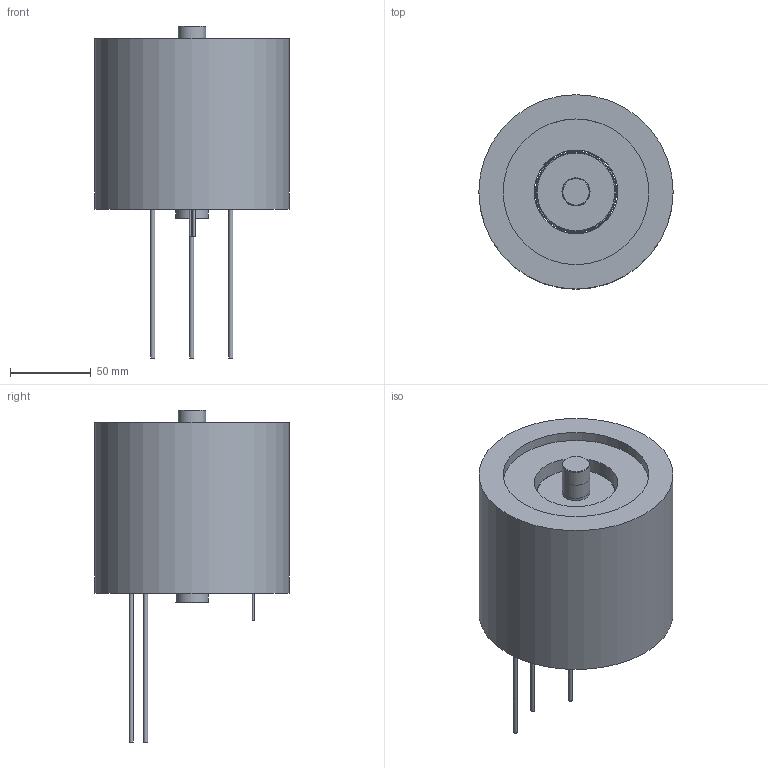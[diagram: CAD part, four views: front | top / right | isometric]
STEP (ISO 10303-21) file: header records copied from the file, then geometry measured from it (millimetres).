
FILE_DESCRIPTION(/* description */ (''),/* implementation_level */ '2;1');
FILE_NAME(/* name */ '154586.stp',/* time_stamp */ '2025-02-13T14:11:17+01:00',/* author */ ('Niklas.Fischer'),/* organization */ (''),/* preprocessor_version */ 'ST-DEVELOPER v20',/* originating_system */ 'Autodesk Inventor 2024',/* authorisation */ '');
FILE_SCHEMA (('AUTOMOTIVE_DESIGN { 1 0 10303 214 3 1 1 }'));
Length unit declared in the file: millimetre
Products named in the file (1): 154586
Bounding box: 120 x 120 x 205 mm (x, y, z)
Volume: 1084997.9 mm3; surface area: 146846.8 mm2
Topology: 2 solids, 4 shells, 411 faces, 1297 edges, 794 vertices
Faces by surface type: plane 249, cylinder 97, bspline 36, cone 29
Full cylindrical faces by diameter (mm): 1.55 x2, 2.5 x3, 16.95 x1, 17 x2, 17.05 x2, 19.95 x1, 20 x1, 20.05 x2, 21 x1, 49 x2, 50.2 x1, 51.7 x1, 85.9 x1, 86 x2, 88 x1, 90 x1, 120 x1
Entity records: 15514 total; most frequent: CARTESIAN_POINT 3472, ORIENTED_EDGE 2594, DIRECTION 2329, EDGE_CURVE 1297, AXIS2_PLACEMENT_3D 809, VERTEX_POINT 794, LINE 711, VECTOR 711
